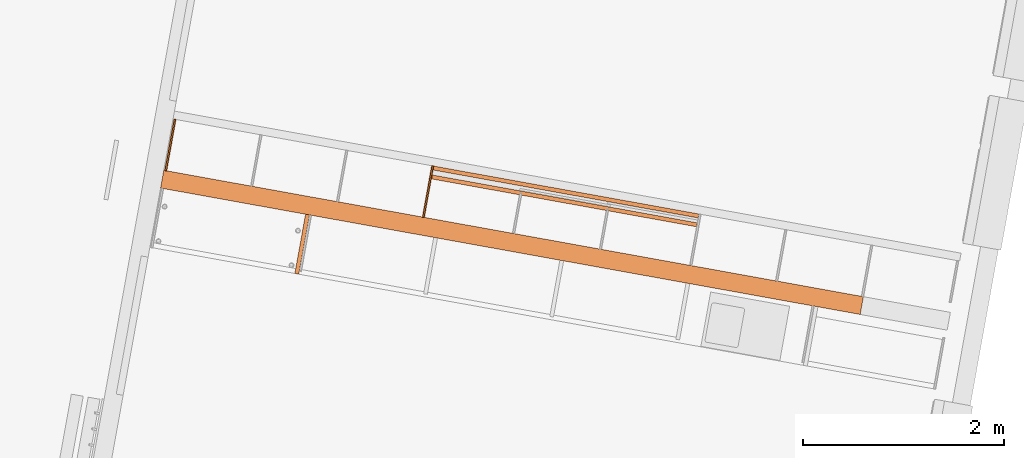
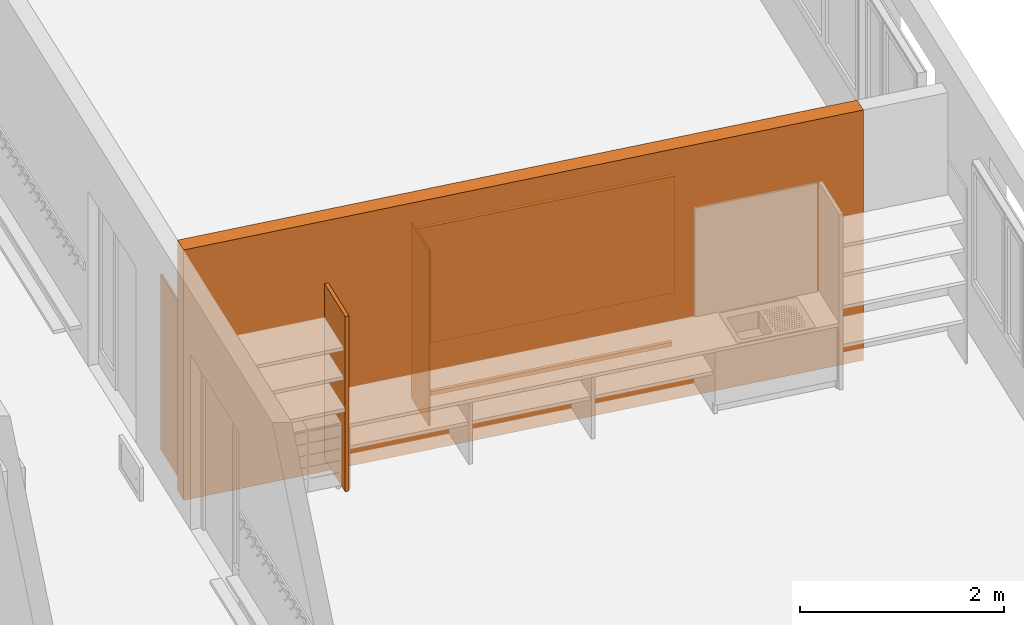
# One storey, part 10 of 52: 6 proxies.
"""IFC2X3 building model written with IfcOpenShell, lengths in metres."""

from ifc_helpers import new_model, entity, si_unit, converted_unit, derived_unit, money_unit, direction, frame, origin_with_axes, place, context, subcontext, project, spatial, polyline, outline, extrude, material, type_object, element, save


model = new_model("IFC2X3")

# Units and contexts
model_context = context("Model", 3, precision=1e-05, world=origin_with_axes(), true_north=direction((0.0, 1.0)))
body_context = subcontext(model_context, "Body", "Model", "MODEL_VIEW")
ifc_project = project(units=[si_unit("LENGTHUNIT", "METRE"), si_unit("AREAUNIT", "SQUARE_METRE"), si_unit("VOLUMEUNIT", "CUBIC_METRE"), converted_unit("PLANEANGLEUNIT", "DEGREE", entity("IfcPlaneAngleMeasure", 0.0174532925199), si_unit("PLANEANGLEUNIT", "RADIAN"), dimensions=[0, 0, 0, 0, 0, 0, 0]), money_unit("CHF"), converted_unit("TIMEUNIT", "Year", entity("IfcTimeMeasure", 31556926.0), si_unit("TIMEUNIT", "SECOND"), dimensions=[0, 0, 1, 0, 0, 0, 0]), si_unit("MASSUNIT", "GRAM", prefix="KILO"), si_unit("THERMODYNAMICTEMPERATUREUNIT", "DEGREE_CELSIUS"), si_unit("LUMINOUSINTENSITYUNIT", "LUMEN"), si_unit("ENERGYUNIT", "JOULE", prefix="MEGA"), derived_unit("THERMALCONDUCTANCEUNIT", [(si_unit("POWERUNIT", "WATT"), 1), (si_unit("LENGTHUNIT", "METRE"), -1), (si_unit("THERMODYNAMICTEMPERATUREUNIT", "KELVIN"), -1)]), derived_unit("SPECIFICHEATCAPACITYUNIT", [(si_unit("ENERGYUNIT", "JOULE"), 1), (si_unit("MASSUNIT", "GRAM", prefix="KILO"), -1), (si_unit("THERMODYNAMICTEMPERATUREUNIT", "KELVIN"), -1)]), derived_unit("MASSDENSITYUNIT", [(si_unit("MASSUNIT", "GRAM", prefix="KILO"), 1), (si_unit("VOLUMEUNIT", "CUBIC_METRE"), -1)])], contexts=[model_context])

# Site, building, storey
site_placement = place(None, frame((0.0, 0.0, 0.0), z_axis=(0.0, 0.0, 1.0), x_axis=(-0.177771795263, -0.984071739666, 0.0)))
site = spatial("IfcSite", under=ifc_project, at=site_placement, Name="Site", CompositionType="ELEMENT")
building_placement = place(site_placement, origin_with_axes())
building = spatial("IfcBuilding", under=site, at=building_placement, Name="Bâtiment", CompositionType="ELEMENT")
storey_placement = place(building_placement, frame((0.0, 0.0, 3.2), z_axis=(0.0, 0.0, 1.0), x_axis=(1.0, 0.0, 0.0)))
storey = spatial("IfcBuildingStorey", under=building, at=storey_placement, Name="R+1", CompositionType="ELEMENT", Elevation=3.2)

# Proxies
ifc_material_1 = material(Name="_BA banché RAL9007")
building_element_proxy_type_1 = type_object("IfcBuildingElementProxyType", Name="_BA banché RAL9007 180", PredefinedType="NOTDEFINED")
proxy_1_placement = place(storey_placement, frame((155.699841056, -156.62715291, -0.15), z_axis=(0.0, 0.0, 1.0), x_axis=(0.0, 1.0, 0.0)))
element("IfcBuildingElementProxy", 1, at=proxy_1_placement, inside=storey, type_object=building_element_proxy_type_1, material=ifc_material_1, Name="M refend", context=body_context, shape_type="SweptSolid", body=[
    extrude(outline(polyline([(0.17999998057, 0.0), (7.26900150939, 0.0), (7.26900150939, 0.18), (0.17999998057, 0.18), (0.17999998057, 0.0)])), origin_with_axes(), (0.0, 0.0, 1.0), 3.0),
])
ifc_material_2 = material(Name="_panneau mélaminé")
building_element_proxy_type_2 = type_object("IfcBuildingElementProxyType", Name="_panneau mélaminé 40", PredefinedType="NOTDEFINED")
proxy_2_placement = place(storey_placement, frame((156.299841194, -154.978236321, 0.0), z_axis=(0.0, 0.0, 1.0), x_axis=(-1.0, 0.0, 0.0)))
element("IfcBuildingElementProxy", 2, at=proxy_2_placement, inside=storey, type_object=building_element_proxy_type_2, material=ifc_material_2, Name="cloison-fd-classe G", context=body_context, shape_type="SweptSolid", body=[
    extrude(outline(polyline([(0.0, -0.04), (0.600000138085, -0.04), (0.600000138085, 0.0), (0.0, 0.0), (0.0, -0.04)])), origin_with_axes(), (0.0, 0.0, 1.0), 2.1),
])
proxy_3_placement = place(storey_placement, frame((155.089841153, -151.107651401, 0.7), z_axis=(0.0, 0.0, 1.0), x_axis=(0.0, -1.0, 0.0)))
element("IfcBuildingElementProxy", 3, at=proxy_3_placement, inside=storey, type_object=building_element_proxy_type_2, material=ifc_material_2, Name="tableau-classe", context=body_context, shape_type="SweptSolid", body=[
    extrude(outline(polyline([(0.0095, 0.0), (2.6995, 0.0), (2.6995, 0.04), (0.0095, 0.04), (0.0095, 0.0)])), origin_with_axes(), (0.0, 0.0, 1.0), 1.4),
])
building_element_proxy_type_3 = type_object("IfcBuildingElementProxyType", Name="_panneau mélaminé 19", PredefinedType="NOTDEFINED")
proxy_4_placement = place(storey_placement, frame((155.519841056, -156.418137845, 0.0), z_axis=(0.0, 0.0, 1.0), x_axis=(-1.0, 0.0, 0.0)))
element("IfcBuildingElementProxy", 4, at=proxy_4_placement, inside=storey, type_object=building_element_proxy_type_3, material=ifc_material_2, Name="cloison pl-classe", context=body_context, shape_type="SweptSolid", body=[
    extrude(outline(polyline([(0.0, 0.0), (0.519999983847, 0.0), (0.519999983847, 0.019), (0.0, 0.019), (0.0, 0.0)])), origin_with_axes(), (0.0, 0.0, 1.0), 2.1),
])
proxy_5_placement = place(storey_placement, frame((155.51984114, -153.816651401, 0.0), z_axis=(0.0, 0.0, 1.0), x_axis=(-1.0, 0.0, 0.0)))
element("IfcBuildingElementProxy", 5, at=proxy_5_placement, inside=storey, type_object=building_element_proxy_type_3, material=ifc_material_2, Name="cloison pl-classe", context=body_context, shape_type="SweptSolid", body=[
    extrude(outline(polyline([(0.0, -0.0095), (0.520000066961, -0.0095), (0.520000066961, 0.0095), (0.0, 0.0095), (0.0, -0.0095)])), origin_with_axes(), (0.0, 0.0, 1.0), 2.1),
])
ifc_material_3 = material(Name="_Bois contreplaqué")
building_element_proxy_type_4 = type_object("IfcBuildingElementProxyType", Name="_Bois contreplaqué 50", PredefinedType="NOTDEFINED")
proxy_6_placement = place(storey_placement, frame((154.999841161, -153.807151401, 0.05), z_axis=(0.0, 0.0, 1.0), x_axis=(1.0, 0.0, 0.0)))
element("IfcBuildingElementProxy", 6, at=proxy_6_placement, inside=storey, type_object=building_element_proxy_type_4, material=ifc_material_3, Name="socle-tableau", context=body_context, shape_type="SweptSolid", body=[
    extrude(outline(polyline([(0.0, 0.0), (0.0399999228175, 0.0), (0.0399999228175, 2.69), (0.0, 2.69), (0.0, 0.0)])), frame((0.0, 0.0, -0.05), z_axis=(0.0, 0.0, 1.0), x_axis=(1.0, 0.0, 0.0)), (0.0, 0.0, 1.0), 0.05),
])

save(model, "model.ifc")
